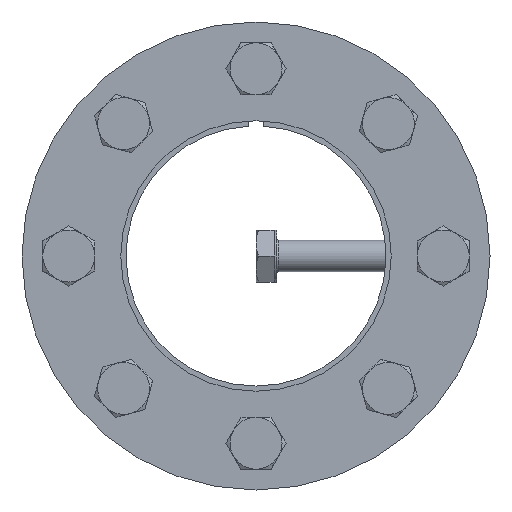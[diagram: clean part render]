
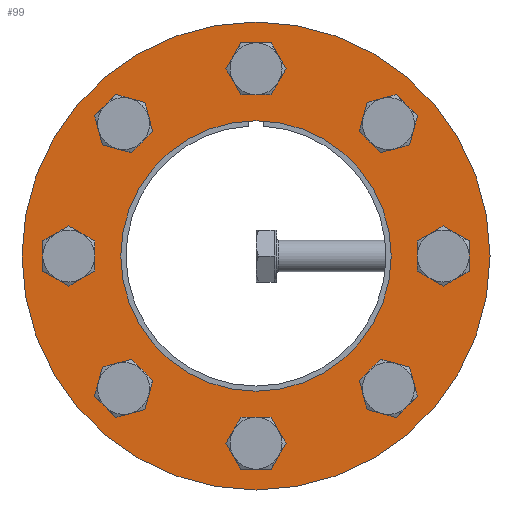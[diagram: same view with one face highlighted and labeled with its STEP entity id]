
A CAD part, front view. The second image highlights one B-rep face of the part: STEP entity #99.
In plain terms, the highlighted planar face has unit normal (0, -1, 0).
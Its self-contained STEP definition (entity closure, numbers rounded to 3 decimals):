
#99 = ADVANCED_FACE( '', ( #241, #242, #243, #244, #245, #246, #247, #248, #249, #250 ), #251, .F. );
#241 = FACE_BOUND( '', #446, .T. );
#242 = FACE_BOUND( '', #447, .T. );
#243 = FACE_BOUND( '', #448, .T. );
#244 = FACE_BOUND( '', #449, .T. );
#245 = FACE_BOUND( '', #450, .T. );
#246 = FACE_OUTER_BOUND( '', #451, .T. );
#247 = FACE_BOUND( '', #452, .T. );
#248 = FACE_BOUND( '', #453, .T. );
#249 = FACE_BOUND( '', #454, .T. );
#250 = FACE_BOUND( '', #455, .T. );
#251 = PLANE( '', #456 );
#446 = EDGE_LOOP( '', ( #703 ) );
#447 = EDGE_LOOP( '', ( #704 ) );
#448 = EDGE_LOOP( '', ( #705 ) );
#449 = EDGE_LOOP( '', ( #706 ) );
#450 = EDGE_LOOP( '', ( #707 ) );
#451 = EDGE_LOOP( '', ( #708 ) );
#452 = EDGE_LOOP( '', ( #709 ) );
#453 = EDGE_LOOP( '', ( #710 ) );
#454 = EDGE_LOOP( '', ( #711 ) );
#455 = EDGE_LOOP( '', ( #712 ) );
#456 = AXIS2_PLACEMENT_3D( '', #713, #714, #715 );
#703 = ORIENTED_EDGE( '', *, *, #1039, .T. );
#704 = ORIENTED_EDGE( '', *, *, #1037, .T. );
#705 = ORIENTED_EDGE( '', *, *, #1035, .T. );
#706 = ORIENTED_EDGE( '', *, *, #1010, .T. );
#707 = ORIENTED_EDGE( '', *, *, #1033, .F. );
#708 = ORIENTED_EDGE( '', *, *, #1040, .T. );
#709 = ORIENTED_EDGE( '', *, *, #1041, .T. );
#710 = ORIENTED_EDGE( '', *, *, #1042, .T. );
#711 = ORIENTED_EDGE( '', *, *, #1043, .T. );
#712 = ORIENTED_EDGE( '', *, *, #1044, .T. );
#713 = CARTESIAN_POINT( '', ( 0., -13.75, 45. ) );
#714 = DIRECTION( '', ( 0., 1., 0. ) );
#715 = DIRECTION( '', ( 0., 0., 1. ) );
#1010 = EDGE_CURVE( '', #1198, #1198, #1199, .T. );
#1033 = EDGE_CURVE( '', #1240, #1240, #1241, .T. );
#1035 = EDGE_CURVE( '', #1243, #1243, #1244, .T. );
#1037 = EDGE_CURVE( '', #1246, #1246, #1247, .T. );
#1039 = EDGE_CURVE( '', #1249, #1249, #1250, .T. );
#1040 = EDGE_CURVE( '', #1251, #1251, #1252, .T. );
#1041 = EDGE_CURVE( '', #1253, #1253, #1254, .T. );
#1042 = EDGE_CURVE( '', #1255, #1255, #1256, .T. );
#1043 = EDGE_CURVE( '', #1257, #1257, #1258, .T. );
#1044 = EDGE_CURVE( '', #1259, #1259, #1260, .T. );
#1198 = VERTEX_POINT( '', #1558 );
#1199 = CIRCLE( '', #1559, 3. );
#1240 = VERTEX_POINT( '', #1603 );
#1241 = CIRCLE( '', #1604, 26. );
#1243 = VERTEX_POINT( '', #1606 );
#1244 = CIRCLE( '', #1607, 3. );
#1246 = VERTEX_POINT( '', #1609 );
#1247 = CIRCLE( '', #1610, 3. );
#1249 = VERTEX_POINT( '', #1612 );
#1250 = CIRCLE( '', #1613, 3. );
#1251 = VERTEX_POINT( '', #1614 );
#1252 = CIRCLE( '', #1615, 45. );
#1253 = VERTEX_POINT( '', #1616 );
#1254 = CIRCLE( '', #1617, 3. );
#1255 = VERTEX_POINT( '', #1618 );
#1256 = CIRCLE( '', #1619, 3. );
#1257 = VERTEX_POINT( '', #1620 );
#1258 = CIRCLE( '', #1621, 3. );
#1259 = VERTEX_POINT( '', #1622 );
#1260 = CIRCLE( '', #1623, 3. );
#1558 = CARTESIAN_POINT( '', ( 3., -13.75, 36. ) );
#1559 = AXIS2_PLACEMENT_3D( '', #1816, #1817, #1818 );
#1603 = CARTESIAN_POINT( '', ( 0., -13.75, -26. ) );
#1604 = AXIS2_PLACEMENT_3D( '', #1867, #1868, #1869 );
#1606 = CARTESIAN_POINT( '', ( 36., -13.75, -3. ) );
#1607 = AXIS2_PLACEMENT_3D( '', #1870, #1871, #1872 );
#1609 = CARTESIAN_POINT( '', ( -3., -13.75, -36. ) );
#1610 = AXIS2_PLACEMENT_3D( '', #1873, #1874, #1875 );
#1612 = CARTESIAN_POINT( '', ( -36., -13.75, 3. ) );
#1613 = AXIS2_PLACEMENT_3D( '', #1876, #1877, #1878 );
#1614 = CARTESIAN_POINT( '', ( 0., -13.75, -45. ) );
#1615 = AXIS2_PLACEMENT_3D( '', #1879, #1880, #1881 );
#1616 = CARTESIAN_POINT( '', ( 27.577, -13.75, 23.335 ) );
#1617 = AXIS2_PLACEMENT_3D( '', #1882, #1883, #1884 );
#1618 = CARTESIAN_POINT( '', ( 23.335, -13.75, -27.577 ) );
#1619 = AXIS2_PLACEMENT_3D( '', #1885, #1886, #1887 );
#1620 = CARTESIAN_POINT( '', ( -27.577, -13.75, -23.335 ) );
#1621 = AXIS2_PLACEMENT_3D( '', #1888, #1889, #1890 );
#1622 = CARTESIAN_POINT( '', ( -23.335, -13.75, 27.577 ) );
#1623 = AXIS2_PLACEMENT_3D( '', #1891, #1892, #1893 );
#1816 = CARTESIAN_POINT( '', ( 0., -13.75, 36. ) );
#1817 = DIRECTION( '', ( 0., 1., 0. ) );
#1818 = DIRECTION( '', ( 1., 0., 0. ) );
#1867 = CARTESIAN_POINT( '', ( 0., -13.75, 0. ) );
#1868 = DIRECTION( '', ( 0., -1., 0. ) );
#1869 = DIRECTION( '', ( 0., 0., -1. ) );
#1870 = CARTESIAN_POINT( '', ( 36., -13.75, 0. ) );
#1871 = DIRECTION( '', ( 0., 1., 0. ) );
#1872 = DIRECTION( '', ( 0., 0., -1. ) );
#1873 = CARTESIAN_POINT( '', ( 0., -13.75, -36. ) );
#1874 = DIRECTION( '', ( 0., 1., 0. ) );
#1875 = DIRECTION( '', ( -1., 0., 0. ) );
#1876 = CARTESIAN_POINT( '', ( -36., -13.75, 0. ) );
#1877 = DIRECTION( '', ( 0., 1., 0. ) );
#1878 = DIRECTION( '', ( 0., 0., 1. ) );
#1879 = CARTESIAN_POINT( '', ( 0., -13.75, 0. ) );
#1880 = DIRECTION( '', ( 0., -1., 0. ) );
#1881 = DIRECTION( '', ( 0., 0., -1. ) );
#1882 = CARTESIAN_POINT( '', ( 25.456, -13.75, 25.456 ) );
#1883 = DIRECTION( '', ( 0., 1., 0. ) );
#1884 = DIRECTION( '', ( 0.707, 0., -0.707 ) );
#1885 = CARTESIAN_POINT( '', ( 25.456, -13.75, -25.456 ) );
#1886 = DIRECTION( '', ( 0., 1., 0. ) );
#1887 = DIRECTION( '', ( -0.707, 0., -0.707 ) );
#1888 = CARTESIAN_POINT( '', ( -25.456, -13.75, -25.456 ) );
#1889 = DIRECTION( '', ( 0., 1., 0. ) );
#1890 = DIRECTION( '', ( -0.707, 0., 0.707 ) );
#1891 = CARTESIAN_POINT( '', ( -25.456, -13.75, 25.456 ) );
#1892 = DIRECTION( '', ( 0., 1., 0. ) );
#1893 = DIRECTION( '', ( 0.707, 0., 0.707 ) );
